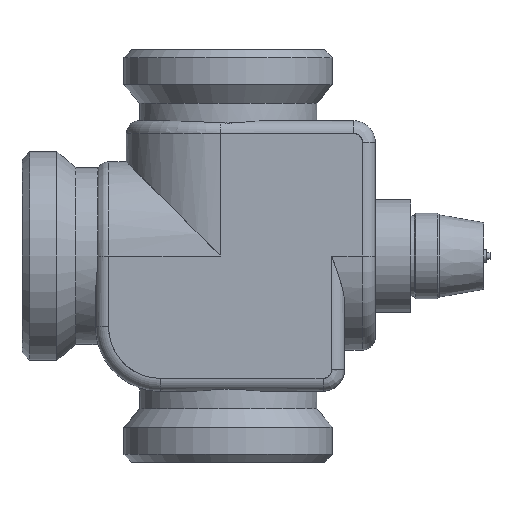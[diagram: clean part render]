
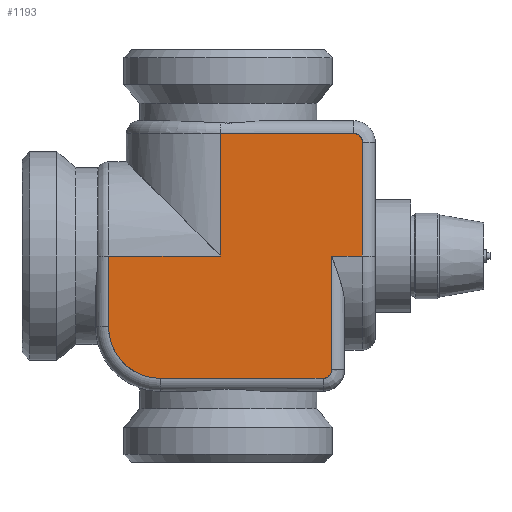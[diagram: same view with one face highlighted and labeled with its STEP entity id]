
A CAD part, left-side view. The second image highlights one B-rep face of the part: STEP entity #1193.
In plain terms, the highlighted planar face has unit normal (1, 0, 0).
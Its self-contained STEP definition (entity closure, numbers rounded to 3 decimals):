
#91=LINE('',#5840,#189);
#92=LINE('',#5853,#190);
#93=LINE('',#5855,#191);
#94=LINE('',#5857,#192);
#95=LINE('',#5859,#193);
#96=LINE('',#5868,#194);
#97=LINE('',#5870,#195);
#98=LINE('',#5872,#196);
#189=VECTOR('',#3697,1.);
#190=VECTOR('',#3698,1.);
#191=VECTOR('',#3699,1.);
#192=VECTOR('',#3700,1.);
#193=VECTOR('',#3701,1.);
#194=VECTOR('',#3702,1.);
#195=VECTOR('',#3703,1.);
#196=VECTOR('',#3704,1.);
#1193=ADVANCED_FACE('',(#1306),#1255,.T.);
#1255=PLANE('',#3279);
#1306=FACE_OUTER_BOUND('',#1397,.T.);
#1397=EDGE_LOOP('',(#1686,#1687,#1688,#1689,#1690,#1691,#1692,#1693,#1694,
#1695,#1696));
#1686=ORIENTED_EDGE('',*,*,#2564,.T.);
#1687=ORIENTED_EDGE('',*,*,#2565,.T.);
#1688=ORIENTED_EDGE('',*,*,#2566,.T.);
#1689=ORIENTED_EDGE('',*,*,#2567,.T.);
#1690=ORIENTED_EDGE('',*,*,#2568,.T.);
#1691=ORIENTED_EDGE('',*,*,#2569,.T.);
#1692=ORIENTED_EDGE('',*,*,#2570,.T.);
#1693=ORIENTED_EDGE('',*,*,#2571,.T.);
#1694=ORIENTED_EDGE('',*,*,#2572,.T.);
#1695=ORIENTED_EDGE('',*,*,#2573,.T.);
#1696=ORIENTED_EDGE('',*,*,#2574,.T.);
#2125=VERTEX_POINT('',#5838);
#2126=VERTEX_POINT('',#5839);
#2127=VERTEX_POINT('',#5841);
#2128=VERTEX_POINT('',#5852);
#2129=VERTEX_POINT('',#5854);
#2130=VERTEX_POINT('',#5856);
#2131=VERTEX_POINT('',#5858);
#2132=VERTEX_POINT('',#5860);
#2133=VERTEX_POINT('',#5867);
#2134=VERTEX_POINT('',#5869);
#2135=VERTEX_POINT('',#5871);
#2564=EDGE_CURVE('',#2125,#2126,#2875,.T.);
#2565=EDGE_CURVE('',#2126,#2127,#91,.T.);
#2566=EDGE_CURVE('',#2127,#2128,#2876,.T.);
#2567=EDGE_CURVE('',#2128,#2129,#92,.T.);
#2568=EDGE_CURVE('',#2129,#2130,#93,.T.);
#2569=EDGE_CURVE('',#2130,#2131,#94,.T.);
#2570=EDGE_CURVE('',#2131,#2132,#95,.T.);
#2571=EDGE_CURVE('',#2132,#2133,#2877,.T.);
#2572=EDGE_CURVE('',#2133,#2134,#96,.T.);
#2573=EDGE_CURVE('',#2134,#2135,#97,.T.);
#2574=EDGE_CURVE('',#2135,#2125,#98,.T.);
#2875=B_SPLINE_CURVE_WITH_KNOTS('',3,(#5832,#5833,#5834,#5835,#5836,#5837),
 .UNSPECIFIED.,.F.,.F.,(4,2,4),(0.,0.5,1.),.UNSPECIFIED.);
#2876=B_SPLINE_CURVE_WITH_KNOTS('',3,(#5842,#5843,#5844,#5845,#5846,#5847,
#5848,#5849,#5850,#5851),.UNSPECIFIED.,.F.,.F.,(4,2,2,2,4),(0.,0.25,0.5,
0.75,1.),.UNSPECIFIED.);
#2877=B_SPLINE_CURVE_WITH_KNOTS('',3,(#5861,#5862,#5863,#5864,#5865,#5866),
 .UNSPECIFIED.,.F.,.F.,(4,2,4),(0.,0.5,1.),.UNSPECIFIED.);
#3279=AXIS2_PLACEMENT_3D('',#5873,#3705,#3706);
#3697=DIRECTION('',(0.,1.,0.));
#3698=DIRECTION('',(0.,0.,1.));
#3699=DIRECTION('',(0.,-1.,0.));
#3700=DIRECTION('',(0.,0.,1.));
#3701=DIRECTION('',(0.,-1.,0.));
#3702=DIRECTION('',(0.,0.,-1.));
#3703=DIRECTION('',(0.,1.,0.));
#3704=DIRECTION('',(0.,0.,-1.));
#3705=DIRECTION('',(1.,0.,0.));
#3706=DIRECTION('',(0.,0.,1.));
#5832=CARTESIAN_POINT('',(-29.666,-32.588,29.153));
#5833=CARTESIAN_POINT('',(-29.666,-32.588,28.506));
#5834=CARTESIAN_POINT('',(-29.666,-32.322,27.764));
#5835=CARTESIAN_POINT('',(-29.666,-31.268,26.71));
#5836=CARTESIAN_POINT('',(-29.666,-30.532,26.444));
#5837=CARTESIAN_POINT('',(-29.666,-29.879,26.444));
#5838=CARTESIAN_POINT('',(-29.666,-32.588,29.153));
#5839=CARTESIAN_POINT('',(-29.666,-29.879,26.444));
#5840=CARTESIAN_POINT('',(-29.666,-2.273,26.444));
#5841=CARTESIAN_POINT('',(-29.666,21.471,26.444));
#5842=CARTESIAN_POINT('',(-29.666,21.471,26.444));
#5843=CARTESIAN_POINT('',(-29.666,23.398,26.444));
#5844=CARTESIAN_POINT('',(-29.666,25.446,26.79));
#5845=CARTESIAN_POINT('',(-29.666,29.463,28.38));
#5846=CARTESIAN_POINT('',(-29.666,31.381,29.62));
#5847=CARTESIAN_POINT('',(-29.666,34.551,32.79));
#5848=CARTESIAN_POINT('',(-29.666,35.798,34.727));
#5849=CARTESIAN_POINT('',(-29.666,37.373,38.704));
#5850=CARTESIAN_POINT('',(-29.666,37.727,40.746));
#5851=CARTESIAN_POINT('',(-29.666,37.727,42.699));
#5852=CARTESIAN_POINT('',(-29.666,37.727,42.699));
#5853=CARTESIAN_POINT('',(-29.666,37.727,65.));
#5854=CARTESIAN_POINT('',(-29.666,37.727,65.));
#5855=CARTESIAN_POINT('',(-29.666,-2.273,65.));
#5856=CARTESIAN_POINT('',(-29.666,2.441,65.));
#5857=CARTESIAN_POINT('',(-29.666,2.441,65.));
#5858=CARTESIAN_POINT('',(-29.666,2.441,103.556));
#5859=CARTESIAN_POINT('',(-29.666,-2.273,103.556));
#5860=CARTESIAN_POINT('',(-29.666,-39.562,103.556));
#5861=CARTESIAN_POINT('',(-29.666,-39.562,103.556));
#5862=CARTESIAN_POINT('',(-29.666,-40.21,103.556));
#5863=CARTESIAN_POINT('',(-29.666,-40.951,103.29));
#5864=CARTESIAN_POINT('',(-29.666,-42.005,102.236));
#5865=CARTESIAN_POINT('',(-29.666,-42.271,101.5));
#5866=CARTESIAN_POINT('',(-29.666,-42.272,100.847));
#5867=CARTESIAN_POINT('',(-29.666,-42.272,100.847));
#5868=CARTESIAN_POINT('',(-29.666,-42.272,65.));
#5869=CARTESIAN_POINT('',(-29.666,-42.272,65.));
#5870=CARTESIAN_POINT('',(-29.666,-2.273,65.));
#5871=CARTESIAN_POINT('',(-29.666,-32.588,65.));
#5872=CARTESIAN_POINT('',(-29.666,-32.588,65.));
#5873=CARTESIAN_POINT('',(-29.666,39.327,24.901));
